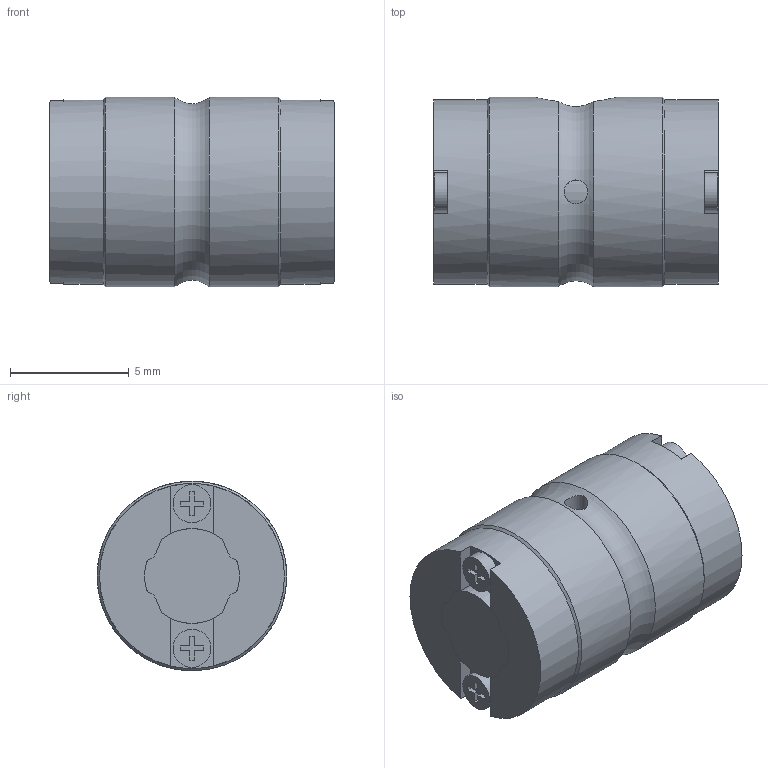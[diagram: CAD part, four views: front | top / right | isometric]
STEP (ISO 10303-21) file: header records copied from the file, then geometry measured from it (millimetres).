
FILE_DESCRIPTION(/* description */ ('STEP AP203'),/* implementation_level */ '2;1');
FILE_NAME(/* name */ 'LT4X+12L(00)',/* time_stamp */ '2024-05-28T07:06:41+02:00',/* author */ ('License CC BY-ND 4.0'),/* organization */ ('CADENAS'),/* preprocessor_version */ 'ST-DEVELOPER v19.3',/* originating_system */ 'PARTsolutions',/* authorisation */ ' ');
FILE_SCHEMA (('CONFIG_CONTROL_DESIGN'));
Length unit declared in the file: millimetre
Products named in the file (3): LT4X+12L(00); 1LT4X 12Shaft; 1LT4X Cylindar
Assembly tree (2 placements, depth 2):
  LT4X+12L(00)
    1LT4X 12Shaft
    1LT4X Cylindar
Bounding box: 12 x 8 x 8 mm (x, y, z)
Volume: 576.7 mm3; surface area: 725.9 mm2
Topology: 2 solids, 2 shells, 128 faces, 355 edges, 236 vertices
Faces by surface type: plane 82, cylinder 42, cone 3, torus 1
Full cylindrical faces by diameter (mm): 1 x2, 1.6 x4, 7.8 x2, 8 x2
Entity records: 4095 total; most frequent: CARTESIAN_POINT 754, DIRECTION 682, ORIENTED_EDGE 668, EDGE_CURVE 334, LINE 232, VECTOR 232, VERTEX_POINT 229, AXIS2_PLACEMENT_3D 225
